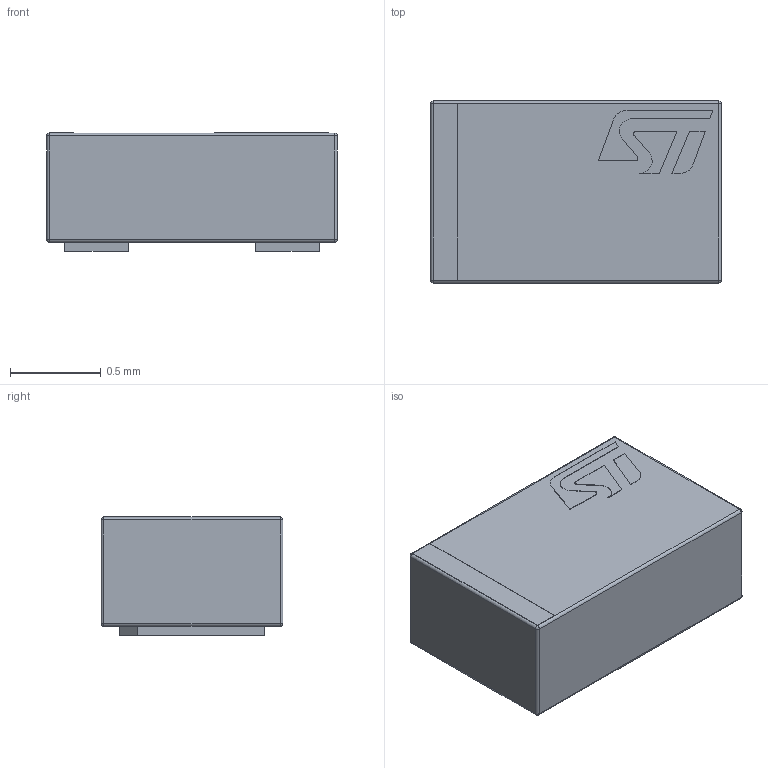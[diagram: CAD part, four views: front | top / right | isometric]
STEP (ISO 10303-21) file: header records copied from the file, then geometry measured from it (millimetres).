
FILE_DESCRIPTION(/* description */ (''),/* implementation_level */ '2;1');
FILE_NAME(/* name */ 'C:\Upverter 3D models\STMicroelectronics\ESDA7P60-1U1M\STMicroelectronics ESDA7P60-1U1M - Diode Surface Mount 1610.stp',/* time_stamp */ '2020-04-06T14:42:11-04:00',/* author */ ('Ricardo'),/* organization */ (''),/* preprocessor_version */ 'ST-DEVELOPER v18',/* originating_system */ 'Autodesk Inventor 2020',/* authorisation */ '');
FILE_SCHEMA (('AUTOMOTIVE_DESIGN { 1 0 10303 214 3 1 1 }'));
Length unit declared in the file: millimetre
Products named in the file (4): STMicroelectronics STPS3L25S - SMC DO-214AB; body; pins; logo
Assembly tree (3 placements, depth 2):
  STMicroelectronics STPS3L25S - SMC DO-214AB
    body
    pins
    logo
Bounding box: 1.6 x 1 x 0.65 mm (x, y, z)
Volume: 1 mm3; surface area: 8.3 mm2
Topology: 7 solids, 7 shells, 71 faces, 147 edges, 90 vertices
Faces by surface type: plane 45, cylinder 18, sphere 8
Entity records: 2011 total; most frequent: DIRECTION 339, CARTESIAN_POINT 315, ORIENTED_EDGE 294, EDGE_CURVE 147, AXIS2_PLACEMENT_3D 114, LINE 111, VECTOR 111, VERTEX_POINT 90
